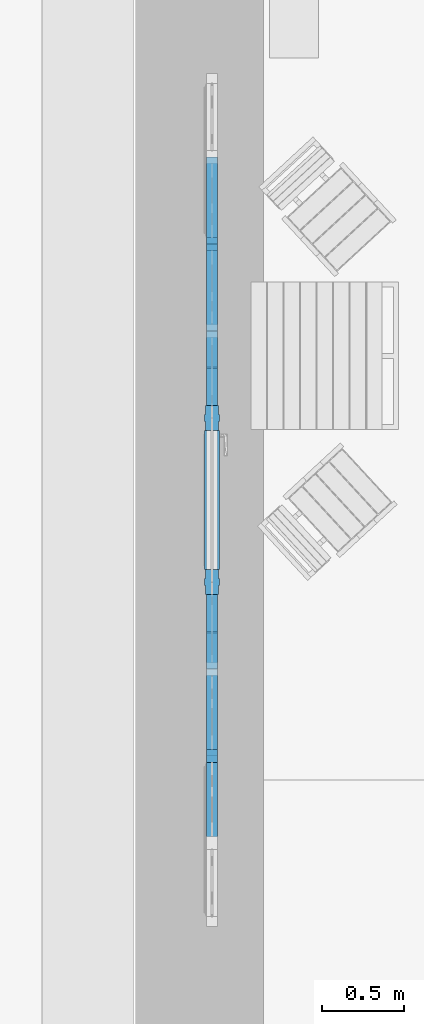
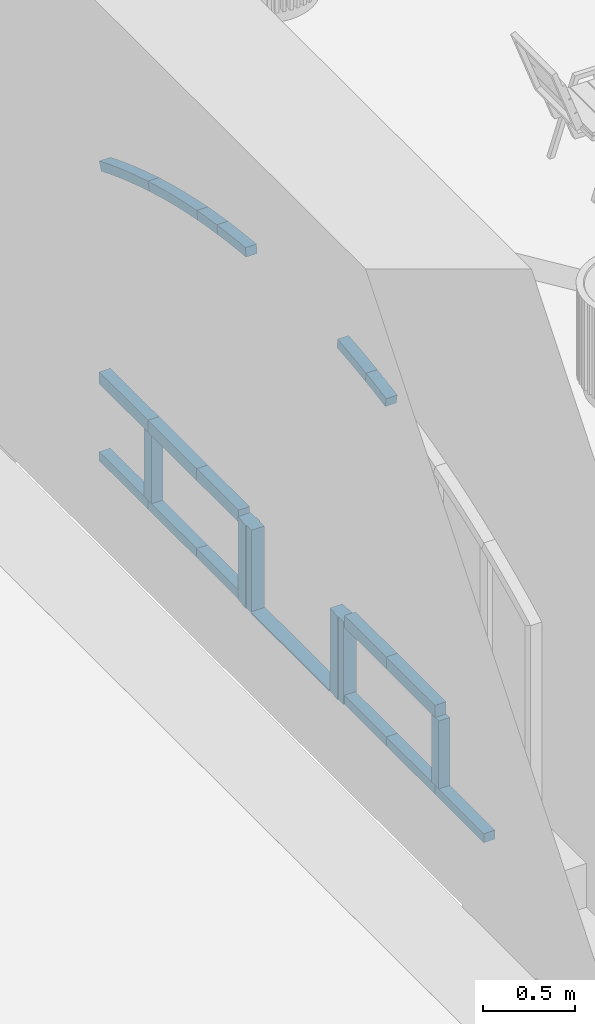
# One storey, part 41 of 88: 22 members, 1 element without a shape of its own.
"""IFC2X3 building model written with IfcOpenShell, lengths in millimetres."""

from ifc_helpers import new_model, entity, si_unit, converted_unit, derived_unit, direction, frame, frame_2d, origin, place, context, subcontext, project, spatial, polyline, circle_curve, parameter, trimmed, segment, composite_curve, rectangle, outline, extrude, source, transform, mapped, material, type_object, type_shapes, element, aggregate, save


model = new_model("IFC2X3")

# Units and contexts
model_context = context("Model", 3, precision=0.01, world=origin(), true_north=direction((6.123031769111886e-17, 1.0)))
body_context = subcontext(model_context, "Body", "Model", "MODEL_VIEW")
ifc_project = project(units=[si_unit("LENGTHUNIT", "METRE", prefix="MILLI"), si_unit("AREAUNIT", "SQUARE_METRE"), si_unit("VOLUMEUNIT", "CUBIC_METRE"), converted_unit("PLANEANGLEUNIT", "DEGREE", entity("IfcPlaneAngleMeasure", 0.017453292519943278), si_unit("PLANEANGLEUNIT", "RADIAN"), dimensions=[0, 0, 0, 0, 0, 0, 0]), si_unit("MASSUNIT", "GRAM", prefix="KILO"), derived_unit("MASSDENSITYUNIT", [(si_unit("MASSUNIT", "GRAM", prefix="KILO"), 1), (si_unit("LENGTHUNIT", "METRE"), -3)]), derived_unit("IONCONCENTRATIONUNIT", [(si_unit("MASSUNIT", "GRAM", prefix="KILO"), 1), (si_unit("LENGTHUNIT", "METRE"), -3)]), derived_unit("MOMENTOFINERTIAUNIT", [(si_unit("LENGTHUNIT", "METRE"), 4)]), si_unit("TIMEUNIT", "SECOND"), si_unit("FREQUENCYUNIT", "HERTZ"), si_unit("THERMODYNAMICTEMPERATUREUNIT", "DEGREE_CELSIUS"), derived_unit("THERMALTRANSMITTANCEUNIT", [(si_unit("MASSUNIT", "GRAM", prefix="KILO"), 1), (si_unit("THERMODYNAMICTEMPERATUREUNIT", "KELVIN"), -1), (si_unit("TIMEUNIT", "SECOND"), -3)]), derived_unit("THERMALCONDUCTANCEUNIT", [(si_unit("MASSUNIT", "GRAM", prefix="KILO"), 1), (si_unit("THERMODYNAMICTEMPERATUREUNIT", "KELVIN"), -1), (si_unit("TIMEUNIT", "SECOND"), -3), (si_unit("LENGTHUNIT", "METRE"), 1)]), derived_unit("VOLUMETRICFLOWRATEUNIT", [(si_unit("LENGTHUNIT", "METRE", prefix="DECI"), 3), (si_unit("TIMEUNIT", "SECOND"), -1)]), derived_unit("MASSFLOWRATEUNIT", [(si_unit("MASSUNIT", "GRAM", prefix="KILO"), 1), (si_unit("TIMEUNIT", "SECOND"), -1)]), derived_unit("ROTATIONALFREQUENCYUNIT", [(si_unit("TIMEUNIT", "SECOND"), -1)]), si_unit("ELECTRICCURRENTUNIT", "AMPERE"), si_unit("ELECTRICVOLTAGEUNIT", "VOLT"), si_unit("POWERUNIT", "WATT"), si_unit("FORCEUNIT", "NEWTON", prefix="KILO"), si_unit("ILLUMINANCEUNIT", "LUX"), si_unit("LUMINOUSFLUXUNIT", "LUMEN"), si_unit("LUMINOUSINTENSITYUNIT", "CANDELA"), si_unit("ENERGYUNIT", "JOULE"), derived_unit("USERDEFINED", [(si_unit("MASSUNIT", "GRAM", prefix="KILO"), -1), (si_unit("LENGTHUNIT", "METRE"), -2), (si_unit("TIMEUNIT", "SECOND"), 3), (si_unit("LUMINOUSFLUXUNIT", "LUMEN"), 1)]), derived_unit("USERDEFINED", [(si_unit("MASSUNIT", "GRAM", prefix="KILO"), 1), (si_unit("TIMEUNIT", "SECOND"), -3), (si_unit("LENGTHUNIT", "METRE"), 3), (si_unit("ELECTRICCURRENTUNIT", "AMPERE"), -2)]), derived_unit("SOUNDPOWERUNIT", [(si_unit("MASSUNIT", "GRAM", prefix="KILO"), 1), (si_unit("TIMEUNIT", "SECOND"), -3), (si_unit("LENGTHUNIT", "METRE"), 2)]), derived_unit("SOUNDPRESSUREUNIT", [(si_unit("MASSUNIT", "GRAM", prefix="KILO"), 1), (si_unit("LENGTHUNIT", "METRE"), -1), (si_unit("TIMEUNIT", "SECOND"), -2)]), derived_unit("LINEARVELOCITYUNIT", [(si_unit("LENGTHUNIT", "METRE"), 1), (si_unit("TIMEUNIT", "SECOND"), -1)]), si_unit("PRESSUREUNIT", "PASCAL"), derived_unit("USERDEFINED", [(si_unit("MASSUNIT", "GRAM", prefix="KILO"), 1), (si_unit("LENGTHUNIT", "METRE"), -2), (si_unit("TIMEUNIT", "SECOND"), -2)]), derived_unit("LINEARFORCEUNIT", [(si_unit("MASSUNIT", "GRAM", prefix="KILO"), 1), (si_unit("TIMEUNIT", "SECOND"), -2)]), derived_unit("PLANARFORCEUNIT", [(si_unit("MASSUNIT", "GRAM", prefix="KILO"), 1), (si_unit("LENGTHUNIT", "METRE"), -1), (si_unit("TIMEUNIT", "SECOND"), -2)]), derived_unit("SPECIFICHEATCAPACITYUNIT", [(si_unit("THERMODYNAMICTEMPERATUREUNIT", "KELVIN"), -1), (si_unit("LENGTHUNIT", "METRE"), 2), (si_unit("TIMEUNIT", "SECOND"), -2)]), derived_unit("HEATFLUXDENSITYUNIT", [(si_unit("MASSUNIT", "GRAM", prefix="KILO"), 1), (si_unit("TIMEUNIT", "SECOND"), -3)]), derived_unit("HEATINGVALUEUNIT", [(si_unit("LENGTHUNIT", "METRE"), 2), (si_unit("TIMEUNIT", "SECOND"), -2)]), derived_unit("VAPORPERMEABILITYUNIT", [(si_unit("LENGTHUNIT", "METRE"), -1), (si_unit("TIMEUNIT", "SECOND"), 1)]), derived_unit("DYNAMICVISCOSITYUNIT", [(si_unit("MASSUNIT", "GRAM", prefix="KILO"), 1), (si_unit("TIMEUNIT", "SECOND"), -1), (si_unit("LENGTHUNIT", "METRE"), -1)]), derived_unit("THERMALEXPANSIONCOEFFICIENTUNIT", [(si_unit("THERMODYNAMICTEMPERATUREUNIT", "KELVIN"), -1)]), derived_unit("MODULUSOFELASTICITYUNIT", [(si_unit("MASSUNIT", "GRAM", prefix="KILO"), 1), (si_unit("LENGTHUNIT", "METRE"), -1), (si_unit("TIMEUNIT", "SECOND"), -2)]), derived_unit("ISOTHERMALMOISTURECAPACITYUNIT", [(si_unit("MASSUNIT", "GRAM", prefix="KILO"), -1), (si_unit("LENGTHUNIT", "METRE"), 3)]), derived_unit("MOISTUREDIFFUSIVITYUNIT", [(si_unit("TIMEUNIT", "SECOND"), -1), (si_unit("LENGTHUNIT", "METRE"), 2)]), derived_unit("MASSPERLENGTHUNIT", [(si_unit("MASSUNIT", "GRAM", prefix="KILO"), 1), (si_unit("LENGTHUNIT", "METRE"), -1)]), derived_unit("THERMALRESISTANCEUNIT", [(si_unit("MASSUNIT", "GRAM", prefix="KILO"), -1), (si_unit("TIMEUNIT", "SECOND"), 3), (si_unit("THERMODYNAMICTEMPERATUREUNIT", "KELVIN"), 1)]), derived_unit("ACCELERATIONUNIT", [(si_unit("LENGTHUNIT", "METRE"), 1), (si_unit("TIMEUNIT", "SECOND"), -2)]), derived_unit("ANGULARVELOCITYUNIT", [(si_unit("TIMEUNIT", "SECOND"), -1), (si_unit("PLANEANGLEUNIT", "RADIAN"), 1)]), derived_unit("LINEARSTIFFNESSUNIT", [(si_unit("MASSUNIT", "GRAM", prefix="KILO"), 1), (si_unit("TIMEUNIT", "SECOND"), -2)]), derived_unit("WARPINGCONSTANTUNIT", [(si_unit("LENGTHUNIT", "METRE"), 6)]), derived_unit("LINEARMOMENTUNIT", [(si_unit("MASSUNIT", "GRAM", prefix="KILO"), 1), (si_unit("LENGTHUNIT", "METRE"), 1), (si_unit("TIMEUNIT", "SECOND"), -2)]), derived_unit("TORQUEUNIT", [(si_unit("MASSUNIT", "GRAM", prefix="KILO"), 1), (si_unit("LENGTHUNIT", "METRE"), 2), (si_unit("TIMEUNIT", "SECOND"), -2)])], contexts=[model_context])

# Site, building, storey
site_placement = place(None, origin())
site = spatial("IfcSite", under=ifc_project, at=site_placement, Name="Default", CompositionType="ELEMENT")
building_placement = place(site_placement, origin())
building = spatial("IfcBuilding", under=site, at=building_placement, Name="Eesti Rahvusraamatukogu hoone renoveerimise projekteerimistööd", CompositionType="ELEMENT")
storey_placement = place(building_placement, origin())
storey = spatial("IfcBuildingStorey", under=building, at=storey_placement, Name="1. korrus", CompositionType="ELEMENT", Elevation=0.0)

# Curtain wall, members
curtain_wall_type = type_object("IfcCurtainWallType", Name="Curtain Wall:Ak-05", PredefinedType="NOTDEFINED")
curtain_wall_placement = place(storey_placement, origin())
curtain_wall = element("IfcCurtainWall", 1, at=curtain_wall_placement, inside=storey, type_object=curtain_wall_type, Name="Curtain Wall:Ak-05", ObjectType="Curtain Wall:Ak-05")
ifc_material_1 = material(Name="LUMION_dark steel window frames")
member_type_1 = type_object("IfcMemberType", Name="Rectangular Mullion:NEW 60x70mm", PredefinedType="MULLION", material=ifc_material_1)
shared_shape_1 = source(origin(), body_context, "Body", "SweptSolid", [
    extrude(outline(composite_curve([segment(polyline([(-32.20246871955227, -109.97239538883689), (27.79753128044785, -109.97239538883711)]), True, "CONTINUOUS"), segment(trimmed(circle_curve(frame_2d((5491.078098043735, -109.97239538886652), x_axis=(-0.9991981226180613, 0.040038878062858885)), 5463.280566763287), [parameter(3.5622212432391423e-13)], [parameter(2.2946721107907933)], True, "PARAMETER"), False, "CONTINUOUS"), segment(polyline([(32.17841239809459, 108.77122904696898), (-27.7734749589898, 111.17356173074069)]), True, "CONTINUOUS"), segment(trimmed(circle_curve(frame_2d((5491.078098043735, -109.97239538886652), x_axis=(-0.9991981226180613, 0.040038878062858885)), 5523.280566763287), [parameter(3.5622212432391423e-13)], [parameter(2.2946721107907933)], True, "PARAMETER"), True, "CONTINUOUS")], self_intersect=False)), frame((-32.202468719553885, -35.0, -109.9723953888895), z_axis=(0.0, 1.0, 0.0), x_axis=(-0.9991981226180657, 0.0, 0.04003887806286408)), (0.0, 0.0, 1.0), 69.99999999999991),
])
type_shapes(member_type_1, [shared_shape_1])
member_1_placement = place(curtain_wall_placement, frame((-42905.0, 44395.0, 2253.1112564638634), z_axis=(0.0, -0.9824581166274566, -0.18648337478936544), x_axis=(0.0, -0.18648337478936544, 0.9824581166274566)))
member_1 = element("IfcMember", 2, at=member_1_placement, type_object=member_type_1, material=ifc_material_1, Name="Rectangular Mullion:NEW 60x70mm", ObjectType="Rectangular Mullion:NEW 60x70mm", context=body_context, shape_type="MappedRepresentation", body=[
    mapped(shared_shape_1, transform((0.0, 0.0, 0.0), scale=1.0)),
])
member_type_2 = type_object("IfcMemberType", Name="Rectangular Mullion:NEW 60x70mm", PredefinedType="MULLION", material=ifc_material_1)
shared_shape_2 = source(origin(), body_context, "Body", "SweptSolid", [
    extrude(outline(composite_curve([segment(polyline([(-44.19959331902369, -278.9278071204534), (15.8004066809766, -278.92780712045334)]), True, "CONTINUOUS"), segment(trimmed(circle_curve(frame_2d((5479.0809734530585, -278.9278071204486), x_axis=(-0.9948301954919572, 0.10155236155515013)), 5463.28056677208), [parameter(3.5622212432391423e-13)], [parameter(5.828569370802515)], True, "PARAMETER"), False, "CONTINUOUS"), segment(polyline([(44.04449918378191, 275.88123627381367), (-15.645312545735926, 281.97437796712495)]), True, "CONTINUOUS"), segment(trimmed(circle_curve(frame_2d((5479.0809734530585, -278.9278071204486), x_axis=(-0.9948301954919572, 0.10155236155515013)), 5523.28056677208), [parameter(3.5622212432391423e-13)], [parameter(5.828569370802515)], True, "PARAMETER"), True, "CONTINUOUS")], self_intersect=False)), frame((-44.199593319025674, -35.0, -278.9278071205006), z_axis=(0.0, 1.0, 0.0), x_axis=(-0.994830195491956, 0.0, 0.1015523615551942)), (0.0, 0.0, 1.0), 70.0),
])
type_shapes(member_type_2, [shared_shape_2])
member_2_placement = place(curtain_wall_placement, frame((-42905.0, 46985.0, 2125.1180799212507), z_axis=(0.0, -0.9592847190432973, 0.28244083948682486), x_axis=(0.0, 0.28244083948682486, 0.9592847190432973)))
member_2 = element("IfcMember", 3, at=member_2_placement, type_object=member_type_2, material=ifc_material_1, Name="Rectangular Mullion:NEW 60x70mm", ObjectType="Rectangular Mullion:NEW 60x70mm", context=body_context, shape_type="MappedRepresentation", body=[
    mapped(shared_shape_2, transform((0.0, 0.0, 0.0), scale=1.0)),
])
member_type_3 = type_object("IfcMemberType", Name="Rectangular Mullion:NEW 60x70mm", PredefinedType="MULLION", material=ifc_material_1)
shared_shape_3 = source(origin(), body_context, "Body", "SweptSolid", [
    extrude(outline(composite_curve([segment(polyline([(-43.38278695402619, -270.80676601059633), (16.61721304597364, -270.8067660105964)]), True, "CONTINUOUS"), segment(trimmed(circle_curve(frame_2d((5479.897779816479, -270.8067660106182), x_axis=(-0.9951275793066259, 0.0985956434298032)), 5463.280566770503), [parameter(3.5622212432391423e-13)], [parameter(5.658307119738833)], True, "PARAMETER"), False, "CONTINUOUS"), segment(polyline([(43.23661433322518, 267.848896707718), (-16.471040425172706, 273.76463531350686)]), True, "CONTINUOUS"), segment(trimmed(circle_curve(frame_2d((5479.897779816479, -270.8067660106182), x_axis=(-0.9951275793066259, 0.0985956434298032)), 5523.280566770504), [parameter(3.5622212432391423e-13)], [parameter(5.658307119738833)], True, "PARAMETER"), True, "CONTINUOUS")], self_intersect=False)), frame((-43.38278695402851, -35.0, -270.8067660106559), z_axis=(0.0, 1.0, 0.0), x_axis=(-0.9951275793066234, 0.0, 0.09859564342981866)), (0.0, 0.0, 1.0), 69.99999999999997),
])
type_shapes(member_type_3, [shared_shape_3])
member_3_placement = place(curtain_wall_placement, frame((-42905.0, 46455.0, 2253.111256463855), z_axis=(0.0, -0.9824581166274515, 0.18648337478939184), x_axis=(0.0, 0.18648337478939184, 0.9824581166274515)))
member_3 = element("IfcMember", 4, at=member_3_placement, type_object=member_type_3, material=ifc_material_1, Name="Rectangular Mullion:NEW 60x70mm", ObjectType="Rectangular Mullion:NEW 60x70mm", context=body_context, shape_type="MappedRepresentation", body=[
    mapped(shared_shape_3, transform((0.0, 0.0, 0.0), scale=1.0)),
])
member_type_4 = type_object("IfcMemberType", Name="Rectangular Mullion:NEW 60x70mm", PredefinedType="MULLION", material=ifc_material_1)
shared_shape_4 = source(origin(), body_context, "Body", "SweptSolid", [
    extrude(outline(composite_curve([segment(polyline([(-34.44225079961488, -156.14991642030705), (25.5577492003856, -156.14991642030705)]), True, "CONTINUOUS"), segment(trimmed(circle_curve(frame_2d((5488.8383159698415, -156.14991642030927), x_axis=(-0.9983826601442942, 0.05685124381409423)), 5463.280566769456), [parameter(3.5622212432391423e-13)], [parameter(3.2590935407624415)], True, "PARAMETER"), False, "CONTINUOUS"), segment(polyline([(34.393730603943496, 154.44437910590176), (-25.509229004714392, 157.8554537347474)]), True, "CONTINUOUS"), segment(trimmed(circle_curve(frame_2d((5488.8383159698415, -156.14991642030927), x_axis=(-0.9983826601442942, 0.05685124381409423)), 5523.280566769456), [parameter(3.5622212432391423e-13)], [parameter(3.2590935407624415)], True, "PARAMETER"), True, "CONTINUOUS")], self_intersect=False)), frame((-34.44225079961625, -35.0, -156.14991642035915), z_axis=(0.0, 1.0, 0.0), x_axis=(-0.9983826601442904, 0.0, 0.056851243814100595)), (0.0, 0.0, 1.0), 69.99999999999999),
])
type_shapes(member_type_4, [shared_shape_4])
member_4_placement = place(curtain_wall_placement, frame((-42905.0, 45925.0, 2327.3219656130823), z_axis=(0.0, -0.9958941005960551, 0.0905259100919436), x_axis=(0.0, 0.0905259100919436, 0.9958941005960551)))
member_4 = element("IfcMember", 5, at=member_4_placement, type_object=member_type_4, material=ifc_material_1, Name="Rectangular Mullion:NEW 60x70mm", ObjectType="Rectangular Mullion:NEW 60x70mm", context=body_context, shape_type="MappedRepresentation", body=[
    mapped(shared_shape_4, transform((0.0, 0.0, 0.0), scale=1.0)),
])
member_type_5 = type_object("IfcMemberType", Name="Rectangular Mullion:NEW 150x90mm", PredefinedType="MULLION", material=ifc_material_1)
shared_shape_5 = source(origin(), body_context, "Body", "SweptSolid", [
    extrude(outline(polyline([(40.0, -20.0), (45.0, -20.0), (45.0, 20.0), (40.0, 20.0), (40.0, 75.0), (-40.0, 75.0), (-40.0, 20.0), (-45.0, 20.0), (-45.0, -20.0), (-40.0, -20.0), (-40.0, -75.0), (40.0, -75.0), (40.0, -20.0)])), frame((0.0, 0.0, -550.0), z_axis=(0.0, 0.0, 1.0), x_axis=(0.0, -1.0, 0.0)), (0.0, 0.0, 1.0), 550.0000000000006),
])
type_shapes(member_type_5, [shared_shape_5])
member_5_placement = place(curtain_wall_placement, frame((-42905.0, 45925.0, -50.0), z_axis=(0.0, 0.0, -1.0), x_axis=(0.0, -1.0, 0.0)))
member_5 = element("IfcMember", 6, at=member_5_placement, type_object=member_type_5, material=ifc_material_1, Name="Rectangular Mullion:NEW 150x90mm", ObjectType="Rectangular Mullion:NEW 150x90mm", context=body_context, shape_type="MappedRepresentation", body=[
    mapped(shared_shape_5, transform((0.0, 0.0, 0.0), scale=1.0)),
])
member_6_placement = place(curtain_wall_placement, frame((-42905.0, 44925.0, -50.0), z_axis=(0.0, 0.0, -1.0), x_axis=(0.0, -1.0, 0.0)))
member_6 = element("IfcMember", 7, at=member_6_placement, type_object=member_type_5, material=ifc_material_1, Name="Rectangular Mullion:NEW 150x90mm", ObjectType="Rectangular Mullion:NEW 150x90mm", context=body_context, shape_type="MappedRepresentation", body=[
    mapped(shared_shape_5, transform((0.0, 0.0, 0.0), scale=1.0)),
])
member_type_6 = type_object("IfcMemberType", Name="Rectangular Mullion:NEW 80x70mm", PredefinedType="MULLION", material=ifc_material_1)
shared_shape_6 = source(origin(), body_context, "Body", "SweptSolid", [
    extrude(rectangle(XDim=80.0, YDim=70.0, at=frame_2d((0.0, -3.552713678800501e-15), x_axis=(1.0, 0.0))), frame((0.0, 0.0, -530.0), z_axis=(0.0, 0.0, 1.0), x_axis=(-1.0, 0.0, 0.0)), (0.0, 0.0, 1.0), 530.0000000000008),
])
type_shapes(member_type_6, [shared_shape_6])
member_7_placement = place(curtain_wall_placement, frame((-42905.0, 43865.0, 500.0), z_axis=(0.0, -1.0, 0.0), x_axis=(0.0, 0.0, 1.0)))
member_7 = element("IfcMember", 8, at=member_7_placement, type_object=member_type_6, material=ifc_material_1, Name="Rectangular Mullion:NEW 80x70mm", ObjectType="Rectangular Mullion:NEW 80x70mm", context=body_context, shape_type="MappedRepresentation", body=[
    mapped(shared_shape_6, transform((0.0, 0.0, 0.0), scale=1.0)),
])
member_8_placement = place(curtain_wall_placement, frame((-42905.0, 46985.0, 500.0), z_axis=(0.0, -1.0, 0.0), x_axis=(0.0, 0.0, 1.0)))
member_8 = element("IfcMember", 9, at=member_8_placement, type_object=member_type_6, material=ifc_material_1, Name="Rectangular Mullion:NEW 80x70mm", ObjectType="Rectangular Mullion:NEW 80x70mm", context=body_context, shape_type="MappedRepresentation", body=[
    mapped(shared_shape_6, transform((0.0, 0.0, 0.0), scale=1.0)),
])
member_9_placement = place(curtain_wall_placement, frame((-42905.0, 46455.0, 500.0), z_axis=(0.0, -1.0, 0.0), x_axis=(0.0, 0.0, 1.0)))
member_9 = element("IfcMember", 10, at=member_9_placement, type_object=member_type_6, material=ifc_material_1, Name="Rectangular Mullion:NEW 80x70mm", ObjectType="Rectangular Mullion:NEW 80x70mm", context=body_context, shape_type="MappedRepresentation", body=[
    mapped(shared_shape_6, transform((0.0, 0.0, 0.0), scale=1.0)),
])
member_type_7 = type_object("IfcMemberType", Name="Rectangular Mullion:NEW 80x70mm", PredefinedType="MULLION", material=ifc_material_1)
shared_shape_7 = source(origin(), body_context, "Body", "SweptSolid", [
    extrude(rectangle(XDim=80.0, YDim=70.0, at=frame_2d((0.0, -3.552713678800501e-15), x_axis=(1.0, 0.0))), frame((0.0, 0.0, -455.0), z_axis=(0.0, 0.0, 1.0), x_axis=(-1.0, 0.0, 0.0)), (0.0, 0.0, 1.0), 455.0000000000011),
])
type_shapes(member_type_7, [shared_shape_7])
member_10_placement = place(curtain_wall_placement, frame((-42905.0, 46000.0, 500.0), z_axis=(0.0, -1.0, 0.0), x_axis=(0.0, 0.0, 1.0)))
member_10 = element("IfcMember", 11, at=member_10_placement, type_object=member_type_7, material=ifc_material_1, Name="Rectangular Mullion:NEW 80x70mm", ObjectType="Rectangular Mullion:NEW 80x70mm", context=body_context, shape_type="MappedRepresentation", body=[
    mapped(shared_shape_7, transform((0.0, 0.0, 0.0), scale=1.0)),
])
member_type_8 = type_object("IfcMemberType", Name="Rectangular Mullion:NEW 80x70mm", PredefinedType="MULLION", material=ifc_material_1)
shared_shape_8 = source(origin(), body_context, "Body", "SweptSolid", [
    extrude(rectangle(XDim=80.0, YDim=70.0, at=frame_2d((0.0, -3.552713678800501e-15), x_axis=(1.0, 0.0))), frame((0.0, 0.0, -455.0), z_axis=(0.0, 0.0, 1.0), x_axis=(-1.0, 0.0, 0.0)), (0.0, 0.0, 1.0), 455.0000000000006),
])
type_shapes(member_type_8, [shared_shape_8])
member_11_placement = place(curtain_wall_placement, frame((-42905.0, 44395.0, 500.0), z_axis=(0.0, -1.0, 0.0), x_axis=(0.0, 0.0, 1.0)))
member_11 = element("IfcMember", 12, at=member_11_placement, type_object=member_type_8, material=ifc_material_1, Name="Rectangular Mullion:NEW 80x70mm", ObjectType="Rectangular Mullion:NEW 80x70mm", context=body_context, shape_type="MappedRepresentation", body=[
    mapped(shared_shape_8, transform((0.0, 0.0, 0.0), scale=1.0)),
])
member_type_9 = type_object("IfcMemberType", Name="Rectangular Mullion:NEW 80x70mm", PredefinedType="MULLION", material=ifc_material_1)
shared_shape_9 = source(origin(), body_context, "Body", "SweptSolid", [
    extrude(rectangle(XDim=80.0, YDim=70.0, at=frame_2d((0.0, 3.552713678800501e-15), x_axis=(1.0, 0.0))), frame((0.0, 0.0, -450.0), z_axis=(0.0, 0.0, 1.0), x_axis=(-1.0, 0.0, 0.0)), (0.0, 0.0, 1.0), 450.00000000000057),
])
type_shapes(member_type_9, [shared_shape_9])
member_12_placement = place(curtain_wall_placement, frame((-42905.0, 43865.0, 10.0), z_axis=(0.0, 0.0, -1.0), x_axis=(0.0, -1.0, 0.0)))
member_12 = element("IfcMember", 13, at=member_12_placement, type_object=member_type_9, material=ifc_material_1, Name="Rectangular Mullion:NEW 80x70mm", ObjectType="Rectangular Mullion:NEW 80x70mm", context=body_context, shape_type="MappedRepresentation", body=[
    mapped(shared_shape_9, transform((0.0, 0.0, 0.0), scale=1.0)),
])
member_13_placement = place(curtain_wall_placement, frame((-42905.0, 46985.0, 10.0), z_axis=(0.0, 0.0, -1.0), x_axis=(0.0, -1.0, 0.0)))
member_13 = element("IfcMember", 14, at=member_13_placement, type_object=member_type_9, material=ifc_material_1, Name="Rectangular Mullion:NEW 80x70mm", ObjectType="Rectangular Mullion:NEW 80x70mm", context=body_context, shape_type="MappedRepresentation", body=[
    mapped(shared_shape_9, transform((0.0, 0.0, 0.0), scale=1.0)),
])
member_type_10 = type_object("IfcMemberType", Name="Rectangular Mullion:NEW 60x70mm", PredefinedType="MULLION", material=ifc_material_1)
shared_shape_10 = source(origin(), body_context, "Body", "SweptSolid", [
    extrude(rectangle(XDim=60.0, YDim=70.0, at=frame_2d((0.0, 3.552713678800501e-15), x_axis=(1.0, 0.0))), frame((-30.0, 0.0, -530.0), z_axis=(0.0, 0.0, 1.0), x_axis=(-1.0, 0.0, 0.0)), (0.0, 0.0, 1.0), 530.0000000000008),
])
type_shapes(member_type_10, [shared_shape_10])
member_14_placement = place(curtain_wall_placement, frame((-42905.0, 43865.0, -50.0), z_axis=(0.0, 1.0, 0.0), x_axis=(0.0, 0.0, -1.0)))
member_14 = element("IfcMember", 15, at=member_14_placement, type_object=member_type_10, material=ifc_material_1, Name="Rectangular Mullion:NEW 60x70mm", ObjectType="Rectangular Mullion:NEW 60x70mm", context=body_context, shape_type="MappedRepresentation", body=[
    mapped(shared_shape_10, transform((0.0, 0.0, 0.0), scale=1.0)),
])
member_15_placement = place(curtain_wall_placement, frame((-42905.0, 46985.0, -50.0), z_axis=(0.0, 1.0, 0.0), x_axis=(0.0, 0.0, -1.0)))
member_15 = element("IfcMember", 16, at=member_15_placement, type_object=member_type_10, material=ifc_material_1, Name="Rectangular Mullion:NEW 60x70mm", ObjectType="Rectangular Mullion:NEW 60x70mm", context=body_context, shape_type="MappedRepresentation", body=[
    mapped(shared_shape_10, transform((0.0, 0.0, 0.0), scale=1.0)),
])
member_type_11 = type_object("IfcMemberType", Name="Rectangular Mullion:NEW 60x70mm", PredefinedType="MULLION", material=ifc_material_1)
shared_shape_11 = source(origin(), body_context, "Body", "SweptSolid", [
    extrude(rectangle(XDim=60.0, YDim=70.0, at=frame_2d((0.0, 3.552713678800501e-15), x_axis=(1.0, 0.0))), frame((-30.0, 0.0, -530.0), z_axis=(0.0, 0.0, 1.0), x_axis=(-1.0, 0.0, 0.0)), (0.0, 0.0, 1.0), 530.0000000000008),
])
type_shapes(member_type_11, [shared_shape_11])
member_16_placement = place(curtain_wall_placement, frame((-42905.0, 44395.0, -50.0), z_axis=(0.0, 1.0, 0.0), x_axis=(0.0, 0.0, -1.0)))
member_16 = element("IfcMember", 17, at=member_16_placement, type_object=member_type_11, material=ifc_material_1, Name="Rectangular Mullion:NEW 60x70mm", ObjectType="Rectangular Mullion:NEW 60x70mm", context=body_context, shape_type="MappedRepresentation", body=[
    mapped(shared_shape_11, transform((0.0, 0.0, 0.0), scale=1.0)),
])
member_17_placement = place(curtain_wall_placement, frame((-42905.0, 47515.0, -50.0), z_axis=(0.0, 1.0, 0.0), x_axis=(0.0, 0.0, -1.0)))
member_17 = element("IfcMember", 18, at=member_17_placement, type_object=member_type_11, material=ifc_material_1, Name="Rectangular Mullion:NEW 60x70mm", ObjectType="Rectangular Mullion:NEW 60x70mm", context=body_context, shape_type="MappedRepresentation", body=[
    mapped(shared_shape_11, transform((0.0, 0.0, 0.0), scale=1.0)),
])
member_type_12 = type_object("IfcMemberType", Name="Rectangular Mullion:NEW 60x70mm", PredefinedType="MULLION", material=ifc_material_1)
shared_shape_12 = source(origin(), body_context, "Body", "SweptSolid", [
    extrude(rectangle(XDim=60.0, YDim=70.0, at=frame_2d((0.0, 3.552713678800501e-15), x_axis=(1.0, 0.0))), frame((-30.0, 0.0, -455.0), z_axis=(0.0, 0.0, 1.0), x_axis=(-1.0, 0.0, 0.0)), (0.0, 0.0, 1.0), 455.0000000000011),
])
type_shapes(member_type_12, [shared_shape_12])
member_18_placement = place(curtain_wall_placement, frame((-42905.0, 46455.0, -50.0), z_axis=(0.0, 1.0, 0.0), x_axis=(0.0, 0.0, -1.0)))
member_18 = element("IfcMember", 19, at=member_18_placement, type_object=member_type_12, material=ifc_material_1, Name="Rectangular Mullion:NEW 60x70mm", ObjectType="Rectangular Mullion:NEW 60x70mm", context=body_context, shape_type="MappedRepresentation", body=[
    mapped(shared_shape_12, transform((0.0, 0.0, 0.0), scale=1.0)),
])
member_type_13 = type_object("IfcMemberType", Name="Rectangular Mullion:NEW 60x70mm", PredefinedType="MULLION", material=ifc_material_1)
shared_shape_13 = source(origin(), body_context, "Body", "SweptSolid", [
    extrude(rectangle(XDim=60.0, YDim=70.0, at=frame_2d((0.0, 3.552713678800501e-15), x_axis=(1.0, 0.0))), frame((-30.0, 0.0, -455.0), z_axis=(0.0, 0.0, 1.0), x_axis=(-1.0, 0.0, 0.0)), (0.0, 0.0, 1.0), 455.0000000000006),
])
type_shapes(member_type_13, [shared_shape_13])
member_19_placement = place(curtain_wall_placement, frame((-42905.0, 44850.0, -50.0), z_axis=(0.0, 1.0, 0.0), x_axis=(0.0, 0.0, -1.0)))
member_19 = element("IfcMember", 20, at=member_19_placement, type_object=member_type_13, material=ifc_material_1, Name="Rectangular Mullion:NEW 60x70mm", ObjectType="Rectangular Mullion:NEW 60x70mm", context=body_context, shape_type="MappedRepresentation", body=[
    mapped(shared_shape_13, transform((0.0, 0.0, 0.0), scale=1.0)),
])
ifc_material_2 = material(Name="Lumion_aluminium")
member_type_14 = type_object("IfcMemberType", Name="Rectangular Mullion:NEW 10x90mm", PredefinedType="MULLION", material=ifc_material_2)
shared_shape_14 = source(origin(), body_context, "Body", "SweptSolid", [
    extrude(rectangle(XDim=10.0, YDim=90.0, at=frame_2d((0.0, 3.552713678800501e-15), x_axis=(1.0, 0.0))), frame((-5.0, 0.0, -850.0), z_axis=(0.0, 0.0, 1.0), x_axis=(-1.0, 0.0, 0.0)), (0.0, 0.0, 1.0), 849.9999999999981),
])
type_shapes(member_type_14, [shared_shape_14])
member_20_placement = place(curtain_wall_placement, frame((-42905.0, 45850.0, -50.0), z_axis=(0.0, 1.0, 0.0), x_axis=(0.0, 0.0, -1.0)))
member_20 = element("IfcMember", 21, at=member_20_placement, type_object=member_type_14, material=ifc_material_2, Name="Rectangular Mullion:NEW 10x90mm", ObjectType="Rectangular Mullion:NEW 10x90mm", context=body_context, shape_type="MappedRepresentation", body=[
    mapped(shared_shape_14, transform((0.0, 0.0, 0.0), scale=1.0)),
])
member_type_15 = type_object("IfcMemberType", Name="Rectangular Mullion:NEW 60x70mm", PredefinedType="MULLION", material=ifc_material_1)
shared_shape_15 = source(origin(), body_context, "Body", "SweptSolid", [
    extrude(outline(composite_curve([segment(polyline([(-34.44225079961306, -156.14991642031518), (25.55774920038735, -156.14991642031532)]), True, "CONTINUOUS"), segment(trimmed(circle_curve(frame_2d((5488.838315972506, -156.14991642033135), x_axis=(-0.9983826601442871, 0.05685124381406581)), 5463.2805667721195), [parameter(3.5622212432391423e-13)], [parameter(3.2590935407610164)], True, "PARAMETER"), False, "CONTINUOUS"), segment(polyline([(34.393730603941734, 154.44437910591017), (-25.509229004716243, 157.8554537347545)]), True, "CONTINUOUS"), segment(trimmed(circle_curve(frame_2d((5488.838315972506, -156.14991642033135), x_axis=(-0.9983826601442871, 0.05685124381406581)), 5523.2805667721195), [parameter(3.5622212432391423e-13)], [parameter(3.2590935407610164)], True, "PARAMETER"), True, "CONTINUOUS")], self_intersect=False)), frame((-34.44225079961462, -35.0, -156.14991642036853), z_axis=(0.0, 1.0, 0.0), x_axis=(-0.9983826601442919, 0.0, 0.056851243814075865)), (0.0, 0.0, 1.0), 69.99999999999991),
])
type_shapes(member_type_15, [shared_shape_15])
member_21_placement = place(curtain_wall_placement, frame((-42905.0, 44613.09257423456, 2290.0), z_axis=(0.0, -0.989136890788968, -0.14699731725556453), x_axis=(0.0, -0.14699731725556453, 0.989136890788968)))
member_21 = element("IfcMember", 22, at=member_21_placement, type_object=member_type_15, material=ifc_material_1, Name="Rectangular Mullion:NEW 60x70mm", ObjectType="Rectangular Mullion:NEW 60x70mm", context=body_context, shape_type="MappedRepresentation", body=[
    mapped(shared_shape_15, transform((0.0, 0.0, 0.0), scale=1.0)),
])
member_type_16 = type_object("IfcMemberType", Name="Rectangular Mullion:NEW 60x70mm", PredefinedType="MULLION", material=ifc_material_1)
shared_shape_16 = source(origin(), body_context, "Body", "SweptSolid", [
    extrude(outline(composite_curve([segment(polyline([(-32.202468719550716, -109.97239538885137), (27.79753128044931, -109.97239538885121)]), True, "CONTINUOUS"), segment(trimmed(circle_curve(frame_2d((5491.078098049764, -109.97239538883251), x_axis=(-0.9991981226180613, 0.04003887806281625)), 5463.280566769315), [parameter(3.5622212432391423e-13)], [parameter(2.294672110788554)], True, "PARAMETER"), False, "CONTINUOUS"), segment(polyline([(32.17841239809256, 108.77122904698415), (-27.773474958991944, 111.17356173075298)]), True, "CONTINUOUS"), segment(trimmed(circle_curve(frame_2d((5491.078098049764, -109.97239538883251), x_axis=(-0.9991981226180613, 0.04003887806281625)), 5523.280566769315), [parameter(3.5622212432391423e-13)], [parameter(2.294672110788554)], True, "PARAMETER"), True, "CONTINUOUS")], self_intersect=False)), frame((-32.202468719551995, -35.0, -109.97239538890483), z_axis=(0.0, 1.0, 0.0), x_axis=(-0.9991981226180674, 0.0, 0.04003887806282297)), (0.0, 0.0, 1.0), 69.99999999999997),
])
type_shapes(member_type_16, [shared_shape_16])
member_22_placement = place(curtain_wall_placement, frame((-42905.0, 46236.90742576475, 2290.0), z_axis=(0.0, -0.989136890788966, 0.1469973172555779), x_axis=(0.0, 0.1469973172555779, 0.989136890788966)))
member_22 = element("IfcMember", 23, at=member_22_placement, type_object=member_type_16, material=ifc_material_1, Name="Rectangular Mullion:NEW 60x70mm", ObjectType="Rectangular Mullion:NEW 60x70mm", context=body_context, shape_type="MappedRepresentation", body=[
    mapped(shared_shape_16, transform((0.0, 0.0, 0.0), scale=1.0)),
])
aggregate(curtain_wall, [member_1, member_2, member_3, member_4, member_5, member_6, member_7, member_8, member_9, member_10, member_11, member_12, member_13, member_14, member_16, member_17, member_15, member_18, member_19, member_20, member_21, member_22])

save(model, "model.ifc")
